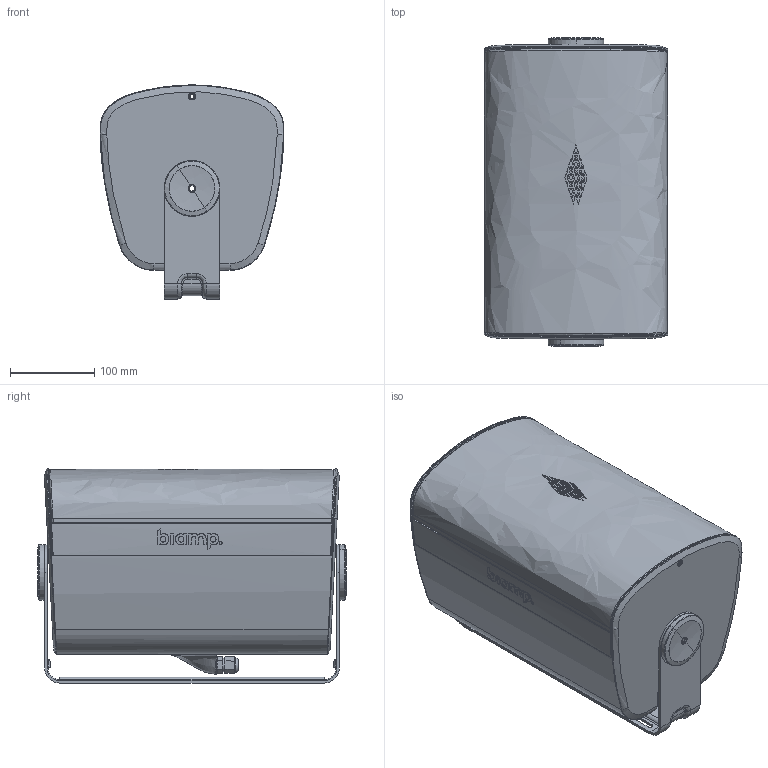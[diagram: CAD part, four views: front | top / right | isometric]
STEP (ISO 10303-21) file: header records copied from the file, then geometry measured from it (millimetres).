
FILE_DESCRIPTION (( 'STEP AP203' ), '1' );
FILE_NAME ('90A.step', '2021-05-28T00:51:49', ( '' ), ( '' ), 'SwSTEP 2.0', 'SolidWorks 2021', '' );
FILE_SCHEMA (( 'CONFIG_CONTROL_DESIGN' ));
Length unit declared in the file: millimetre
Products named in the file (3): 90A; DESONO EX-S6 UB OPTION; 525.0393
Assembly tree (2 placements, depth 2):
  90A
    DESONO EX-S6 UB OPTION
    525.0393
Bounding box: 217.81 x 365.04 x 253.48 mm (x, y, z)
Volume: 7450.7 mm3; surface area: 556840.6 mm2
Topology: 2 solids, 130 shells, 745 faces, 3476 edges, 2823 vertices
Faces by surface type: plane 356, bspline 237, cylinder 136, cone 14, torus 2
Entity records: 65638 total; most frequent: CARTESIAN_POINT 42008, ORIENTED_EDGE 4659, EDGE_CURVE 3472, DIRECTION 3299, VERTEX_POINT 2823, VECTOR 1559, LINE 1559, B_SPLINE_CURVE_WITH_KNOTS 1450
